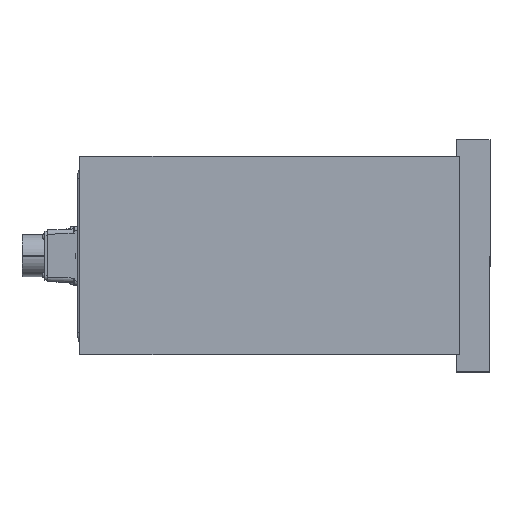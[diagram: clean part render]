
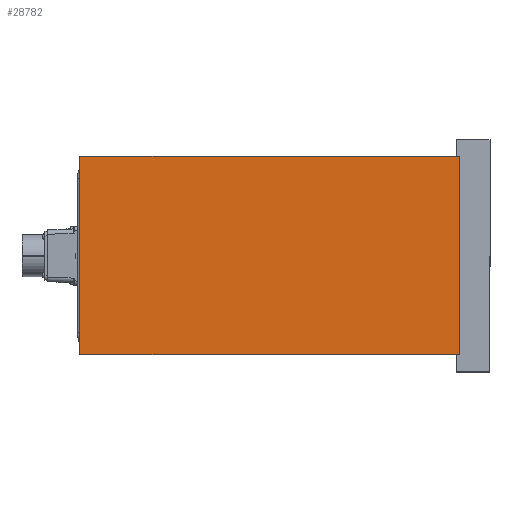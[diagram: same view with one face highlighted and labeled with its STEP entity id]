
A CAD part, top view. The second image highlights one B-rep face of the part: STEP entity #28782.
In plain terms, the highlighted planar face has unit normal (0, 0, 1) as drawn and (0, 0, -1) by its records, which use the part's own axes.
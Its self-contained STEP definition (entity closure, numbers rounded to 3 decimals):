
#976 = VECTOR ( 'NONE', #21253, 1000. ) ;
#1128 = DIRECTION ( 'NONE',  ( 0., 0., 1. ) ) ;
#1603 = ORIENTED_EDGE ( 'NONE', *, *, #4816, .T. ) ;
#3078 = FACE_OUTER_BOUND ( 'NONE', #18787, .T. ) ;
#3254 = CARTESIAN_POINT ( 'NONE',  ( 90., -77.5, -189. ) ) ;
#3463 = DIRECTION ( 'NONE',  ( 0., -1., 0. ) ) ;
#3745 = VERTEX_POINT ( 'NONE', #7637 ) ;
#4529 = ORIENTED_EDGE ( 'NONE', *, *, #17570, .T. ) ;
#4688 = AXIS2_PLACEMENT_3D ( 'NONE', #21497, #1128, #28001 ) ;
#4816 = EDGE_CURVE ( 'NONE', #27293, #3745, #28787, .T. ) ;
#5100 = VECTOR ( 'NONE', #17306, 1000. ) ;
#5156 = CARTESIAN_POINT ( 'NONE',  ( -90., -77.5, -189. ) ) ;
#6458 = VERTEX_POINT ( 'NONE', #24322 ) ;
#7637 = CARTESIAN_POINT ( 'NONE',  ( 90., 267.5, -189. ) ) ;
#9343 = VECTOR ( 'NONE', #3463, 1000. ) ;
#10473 = VERTEX_POINT ( 'NONE', #27516 ) ;
#12161 = DIRECTION ( 'NONE',  ( 0., 1., 0. ) ) ;
#13484 = ORIENTED_EDGE ( 'NONE', *, *, #22735, .T. ) ;
#15003 = LINE ( 'NONE', #16925, #5100 ) ;
#15632 = VECTOR ( 'NONE', #12161, 1000. ) ;
#16428 = CARTESIAN_POINT ( 'NONE',  ( 90., 267.5, -189. ) ) ;
#16925 = CARTESIAN_POINT ( 'NONE',  ( 90., -77.5, -189. ) ) ;
#17306 = DIRECTION ( 'NONE',  ( -1., 0., 0. ) ) ;
#17570 = EDGE_CURVE ( 'NONE', #6458, #10473, #15003, .T. ) ;
#17707 = LINE ( 'NONE', #5156, #15632 ) ;
#18426 = EDGE_CURVE ( 'NONE', #10473, #27293, #17707, .T. ) ;
#18787 = EDGE_LOOP ( 'NONE', ( #13484, #4529, #28943, #1603 ) ) ;
#21253 = DIRECTION ( 'NONE',  ( 1., 0., 0. ) ) ;
#21497 = CARTESIAN_POINT ( 'NONE',  ( 0., 0., -189. ) ) ;
#21590 = PLANE ( 'NONE',  #4688 ) ;
#21688 = LINE ( 'NONE', #3254, #9343 ) ;
#22735 = EDGE_CURVE ( 'NONE', #3745, #6458, #21688, .T. ) ;
#24322 = CARTESIAN_POINT ( 'NONE',  ( 90., -77.5, -189. ) ) ;
#27171 = CARTESIAN_POINT ( 'NONE',  ( -90., 267.5, -189. ) ) ;
#27293 = VERTEX_POINT ( 'NONE', #27171 ) ;
#27516 = CARTESIAN_POINT ( 'NONE',  ( -90., -77.5, -189. ) ) ;
#28001 = DIRECTION ( 'NONE',  ( 1., 0., 0. ) ) ;
#28782 = ADVANCED_FACE ( 'NONE', ( #3078 ), #21590, .F. ) ;
#28787 = LINE ( 'NONE', #16428, #976 ) ;
#28943 = ORIENTED_EDGE ( 'NONE', *, *, #18426, .T. ) ;
